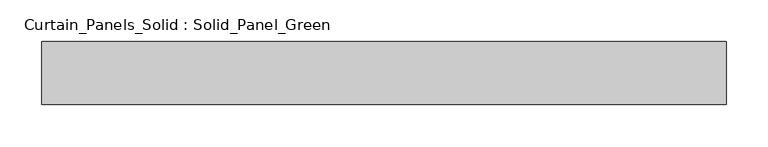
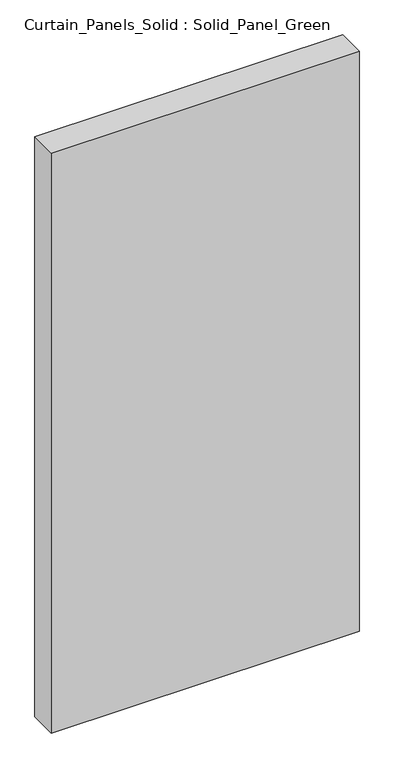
"""IFC4 building model written with IfcOpenShell, lengths in millimetres: plate geometry, Curtain_Panels_Solid : Solid_Panel_Green."""

from ifc_helpers import new_model, si_unit, origin, origin_with_axes, place, context, project, spatial, polyline, outline, extrude, source, transform, mapped, element, save


def curtain_panels_solid_solid_panel_green_e5ea026e(model_context):
    return source(origin(), model_context, "Body", "SweptSolid", [
        extrude(outline(polyline([(407.2150001, -25.0), (-407.2150001, -25.0), (-407.2150001, 50.0), (407.2150001, 50.0), (407.2150001, -25.0)])), origin_with_axes(), (0.0, 0.0, 1.0), 1622.5),
    ])


if __name__ == "__main__":
    model = new_model("IFC4")
    model_context = context("Model", 3, world=origin())
    ifc_project = project(units=[si_unit("LENGTHUNIT", "METRE", prefix="MILLI")], contexts=[model_context])
    site = spatial("IfcSite", under=ifc_project)
    building = spatial("IfcBuilding", under=site)
    placement = place(None, origin())
    curtain_panels_solid_solid_panel_green_shape = curtain_panels_solid_solid_panel_green_e5ea026e(model_context)
    element("IfcPlate", 1, ObjectType="Curtain_Panels_Solid : Solid_Panel_Green", at=placement, inside=building, context=model_context, shape_type="MappedRepresentation", body=[
        mapped(curtain_panels_solid_solid_panel_green_shape, transform((0.0, 0.0, 0.0), x_axis=(1.0, 0.0, 0.0), y_axis=(0.0, 1.0, 0.0), z_axis=(0.0, 0.0, 1.0))),
    ])
    save(model, "model.ifc")
